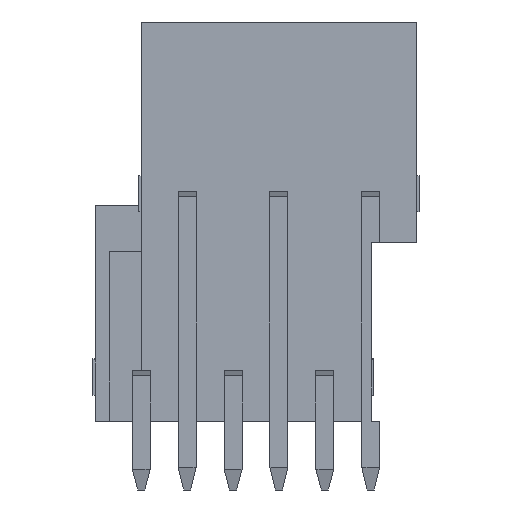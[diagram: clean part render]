
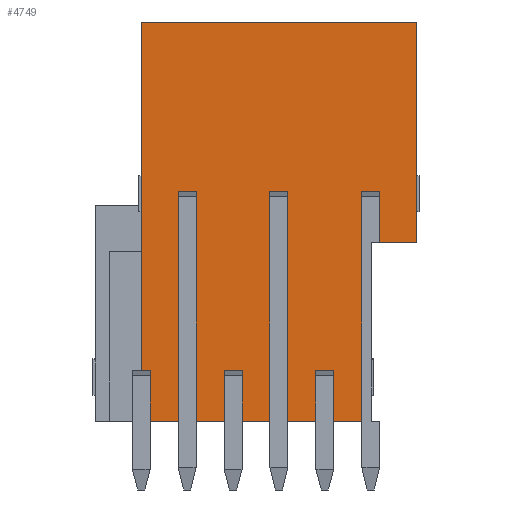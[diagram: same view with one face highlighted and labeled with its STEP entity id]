
A CAD part, front view. The second image highlights one B-rep face of the part: STEP entity #4749.
In plain terms, the highlighted planar face has unit normal (0, -1, 0).
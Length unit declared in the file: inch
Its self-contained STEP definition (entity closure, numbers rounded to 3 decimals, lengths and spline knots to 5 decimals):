
#69=DIRECTION('',(0.,0.,-1.));
#70=VECTOR('',#69,0.76);
#71=CARTESIAN_POINT('',(-0.3,0.,0.87));
#72=LINE('',#71,#70);
#77=DIRECTION('',(-1.,0.,0.));
#78=VECTOR('',#77,0.08031);
#79=CARTESIAN_POINT('',(0.3,0.,0.39));
#80=LINE('',#79,#78);
#81=DIRECTION('',(0.,0.,1.));
#82=VECTOR('',#81,0.11);
#83=CARTESIAN_POINT('',(0.21969,0.,0.39));
#84=LINE('',#83,#82);
#85=DIRECTION('',(1.,0.,0.));
#86=VECTOR('',#85,0.03937);
#87=CARTESIAN_POINT('',(0.18031,0.,0.5));
#88=LINE('',#87,#86);
#89=DIRECTION('',(0.,0.,1.));
#90=VECTOR('',#89,0.5);
#91=CARTESIAN_POINT('',(0.18031,0.,0.));
#92=LINE('',#91,#90);
#93=DIRECTION('',(0.,0.,1.));
#94=VECTOR('',#93,0.11);
#95=CARTESIAN_POINT('',(0.11969,0.,0.));
#96=LINE('',#95,#94);
#97=DIRECTION('',(1.,0.,0.));
#98=VECTOR('',#97,0.03937);
#99=CARTESIAN_POINT('',(0.08031,0.,0.11));
#100=LINE('',#99,#98);
#101=DIRECTION('',(0.,0.,1.));
#102=VECTOR('',#101,0.11);
#103=CARTESIAN_POINT('',(0.08031,0.,0.));
#104=LINE('',#103,#102);
#105=DIRECTION('',(0.,0.,1.));
#106=VECTOR('',#105,0.5);
#107=CARTESIAN_POINT('',(0.01969,0.,0.));
#108=LINE('',#107,#106);
#109=DIRECTION('',(1.,0.,0.));
#110=VECTOR('',#109,0.03937);
#111=CARTESIAN_POINT('',(-0.01969,0.,0.5));
#112=LINE('',#111,#110);
#113=DIRECTION('',(0.,0.,1.));
#114=VECTOR('',#113,0.5);
#115=CARTESIAN_POINT('',(-0.01969,0.,0.));
#116=LINE('',#115,#114);
#117=DIRECTION('',(0.,0.,1.));
#118=VECTOR('',#117,0.11);
#119=CARTESIAN_POINT('',(-0.08031,0.,0.));
#120=LINE('',#119,#118);
#121=DIRECTION('',(1.,0.,0.));
#122=VECTOR('',#121,0.03937);
#123=CARTESIAN_POINT('',(-0.11969,0.,0.11));
#124=LINE('',#123,#122);
#125=DIRECTION('',(0.,0.,1.));
#126=VECTOR('',#125,0.11);
#127=CARTESIAN_POINT('',(-0.11969,0.,0.));
#128=LINE('',#127,#126);
#129=DIRECTION('',(0.,0.,1.));
#130=VECTOR('',#129,0.5);
#131=CARTESIAN_POINT('',(-0.18031,0.,0.));
#132=LINE('',#131,#130);
#133=DIRECTION('',(1.,0.,0.));
#134=VECTOR('',#133,0.03937);
#135=CARTESIAN_POINT('',(-0.21969,0.,0.5));
#136=LINE('',#135,#134);
#137=DIRECTION('',(0.,0.,1.));
#138=VECTOR('',#137,0.5);
#139=CARTESIAN_POINT('',(-0.21969,0.,0.));
#140=LINE('',#139,#138);
#141=DIRECTION('',(0.,0.,1.));
#142=VECTOR('',#141,0.11);
#143=CARTESIAN_POINT('',(-0.28031,0.,0.));
#144=LINE('',#143,#142);
#145=DIRECTION('',(1.,0.,0.));
#146=VECTOR('',#145,0.01969);
#147=CARTESIAN_POINT('',(-0.3,0.,0.11));
#148=LINE('',#147,#146);
#149=DIRECTION('',(1.,0.,0.));
#150=VECTOR('',#149,0.6);
#151=CARTESIAN_POINT('',(-0.3,0.,0.87));
#152=LINE('',#151,#150);
#165=DIRECTION('',(0.,0.,-1.));
#166=VECTOR('',#165,0.48);
#167=CARTESIAN_POINT('',(0.3,0.,0.87));
#168=LINE('',#167,#166);
#1062=DIRECTION('',(1.,0.,0.));
#1063=VECTOR('',#1062,0.06063);
#1064=CARTESIAN_POINT('',(-0.28031,0.,0.));
#1065=LINE('',#1064,#1063);
#1078=DIRECTION('',(1.,0.,0.));
#1079=VECTOR('',#1078,0.06063);
#1080=CARTESIAN_POINT('',(-0.18031,0.,0.));
#1081=LINE('',#1080,#1079);
#1094=DIRECTION('',(1.,0.,0.));
#1095=VECTOR('',#1094,0.06063);
#1096=CARTESIAN_POINT('',(-0.08031,0.,0.));
#1097=LINE('',#1096,#1095);
#1110=DIRECTION('',(1.,0.,0.));
#1111=VECTOR('',#1110,0.06063);
#1112=CARTESIAN_POINT('',(0.01969,0.,0.));
#1113=LINE('',#1112,#1111);
#1126=DIRECTION('',(1.,0.,0.));
#1127=VECTOR('',#1126,0.06063);
#1128=CARTESIAN_POINT('',(0.11969,0.,0.));
#1129=LINE('',#1128,#1127);
#3567=CARTESIAN_POINT('',(-0.3,0.,0.87));
#3568=CARTESIAN_POINT('',(0.3,0.,0.87));
#3569=VERTEX_POINT('',#3567);
#3570=VERTEX_POINT('',#3568);
#3616=CARTESIAN_POINT('',(-0.21969,0.,0.));
#3618=VERTEX_POINT('',#3616);
#3620=CARTESIAN_POINT('',(-0.18031,0.,0.));
#3622=VERTEX_POINT('',#3620);
#3728=CARTESIAN_POINT('',(-0.28031,0.,0.));
#3729=VERTEX_POINT('',#3728);
#3746=CARTESIAN_POINT('',(-0.28031,0.,0.11));
#3747=VERTEX_POINT('',#3746);
#3748=CARTESIAN_POINT('',(-0.3,0.,0.11));
#3749=VERTEX_POINT('',#3748);
#3827=CARTESIAN_POINT('',(0.3,0.,0.39));
#3829=VERTEX_POINT('',#3827);
#3831=CARTESIAN_POINT('',(0.21969,0.,0.39));
#3832=VERTEX_POINT('',#3831);
#4033=CARTESIAN_POINT('',(-0.21969,0.,0.5));
#4034=VERTEX_POINT('',#4033);
#4035=CARTESIAN_POINT('',(-0.18031,0.,0.5));
#4036=VERTEX_POINT('',#4035);
#4211=CARTESIAN_POINT('',(-0.01969,0.,0.5));
#4212=VERTEX_POINT('',#4211);
#4213=CARTESIAN_POINT('',(0.01969,0.,0.5));
#4214=VERTEX_POINT('',#4213);
#4269=CARTESIAN_POINT('',(0.18031,0.,0.5));
#4270=VERTEX_POINT('',#4269);
#4271=CARTESIAN_POINT('',(0.21969,0.,0.5));
#4272=VERTEX_POINT('',#4271);
#4315=CARTESIAN_POINT('',(-0.01969,0.,0.));
#4316=VERTEX_POINT('',#4315);
#4317=CARTESIAN_POINT('',(0.01969,0.,0.));
#4318=VERTEX_POINT('',#4317);
#4360=CARTESIAN_POINT('',(0.18031,0.,0.));
#4361=VERTEX_POINT('',#4360);
#4487=CARTESIAN_POINT('',(0.08031,0.,0.11));
#4488=VERTEX_POINT('',#4487);
#4489=CARTESIAN_POINT('',(0.11969,0.,0.11));
#4490=VERTEX_POINT('',#4489);
#4538=CARTESIAN_POINT('',(-0.11969,0.,0.));
#4539=CARTESIAN_POINT('',(-0.11969,0.,0.11));
#4540=VERTEX_POINT('',#4538);
#4541=VERTEX_POINT('',#4539);
#4542=CARTESIAN_POINT('',(-0.08031,0.,0.));
#4543=CARTESIAN_POINT('',(-0.08031,0.,0.11));
#4544=VERTEX_POINT('',#4542);
#4545=VERTEX_POINT('',#4543);
#4583=CARTESIAN_POINT('',(0.08031,0.,0.));
#4584=VERTEX_POINT('',#4583);
#4585=CARTESIAN_POINT('',(0.11969,0.,0.));
#4586=VERTEX_POINT('',#4585);
#4692=CARTESIAN_POINT('',(-0.3,0.,0.87));
#4693=DIRECTION('',(0.,-1.,0.));
#4694=DIRECTION('',(0.,0.,-1.));
#4695=AXIS2_PLACEMENT_3D('',#4692,#4693,#4694);
#4696=PLANE('',#4695);
#4698=ORIENTED_EDGE('',*,*,#4697,.T.);
#4700=ORIENTED_EDGE('',*,*,#4699,.T.);
#4702=ORIENTED_EDGE('',*,*,#4701,.F.);
#4704=ORIENTED_EDGE('',*,*,#4703,.F.);
#4706=ORIENTED_EDGE('',*,*,#4705,.F.);
#4708=ORIENTED_EDGE('',*,*,#4707,.T.);
#4710=ORIENTED_EDGE('',*,*,#4709,.F.);
#4712=ORIENTED_EDGE('',*,*,#4711,.F.);
#4714=ORIENTED_EDGE('',*,*,#4713,.F.);
#4716=ORIENTED_EDGE('',*,*,#4715,.T.);
#4718=ORIENTED_EDGE('',*,*,#4717,.F.);
#4720=ORIENTED_EDGE('',*,*,#4719,.F.);
#4722=ORIENTED_EDGE('',*,*,#4721,.F.);
#4724=ORIENTED_EDGE('',*,*,#4723,.T.);
#4726=ORIENTED_EDGE('',*,*,#4725,.F.);
#4728=ORIENTED_EDGE('',*,*,#4727,.F.);
#4730=ORIENTED_EDGE('',*,*,#4729,.F.);
#4732=ORIENTED_EDGE('',*,*,#4731,.T.);
#4734=ORIENTED_EDGE('',*,*,#4733,.F.);
#4736=ORIENTED_EDGE('',*,*,#4735,.F.);
#4738=ORIENTED_EDGE('',*,*,#4737,.F.);
#4740=ORIENTED_EDGE('',*,*,#4739,.T.);
#4741=ORIENTED_EDGE('',*,*,#4678,.F.);
#4742=ORIENTED_EDGE('',*,*,#4668,.F.);
#4744=ORIENTED_EDGE('',*,*,#4743,.T.);
#4746=ORIENTED_EDGE('',*,*,#4745,.T.);
#4747=EDGE_LOOP('',(#4698,#4700,#4702,#4704,#4706,#4708,#4710,#4712,#4714,#4716,
#4718,#4720,#4722,#4724,#4726,#4728,#4730,#4732,#4734,#4736,#4738,#4740,#4741,
#4742,#4744,#4746));
#4748=FACE_OUTER_BOUND('',#4747,.F.);
#4749=ADVANCED_FACE('',(#4748),#4696,.T.);
#4668=EDGE_CURVE('',#3569,#3749,#72,.T.);
#4678=EDGE_CURVE('',#3749,#3747,#148,.T.);
#4697=EDGE_CURVE('',#3829,#3832,#80,.T.);
#4699=EDGE_CURVE('',#3832,#4272,#84,.T.);
#4701=EDGE_CURVE('',#4270,#4272,#88,.T.);
#4703=EDGE_CURVE('',#4361,#4270,#92,.T.);
#4705=EDGE_CURVE('',#4586,#4361,#1129,.T.);
#4707=EDGE_CURVE('',#4586,#4490,#96,.T.);
#4709=EDGE_CURVE('',#4488,#4490,#100,.T.);
#4711=EDGE_CURVE('',#4584,#4488,#104,.T.);
#4713=EDGE_CURVE('',#4318,#4584,#1113,.T.);
#4715=EDGE_CURVE('',#4318,#4214,#108,.T.);
#4717=EDGE_CURVE('',#4212,#4214,#112,.T.);
#4719=EDGE_CURVE('',#4316,#4212,#116,.T.);
#4721=EDGE_CURVE('',#4544,#4316,#1097,.T.);
#4723=EDGE_CURVE('',#4544,#4545,#120,.T.);
#4725=EDGE_CURVE('',#4541,#4545,#124,.T.);
#4727=EDGE_CURVE('',#4540,#4541,#128,.T.);
#4729=EDGE_CURVE('',#3622,#4540,#1081,.T.);
#4731=EDGE_CURVE('',#3622,#4036,#132,.T.);
#4733=EDGE_CURVE('',#4034,#4036,#136,.T.);
#4735=EDGE_CURVE('',#3618,#4034,#140,.T.);
#4737=EDGE_CURVE('',#3729,#3618,#1065,.T.);
#4739=EDGE_CURVE('',#3729,#3747,#144,.T.);
#4743=EDGE_CURVE('',#3569,#3570,#152,.T.);
#4745=EDGE_CURVE('',#3570,#3829,#168,.T.);
